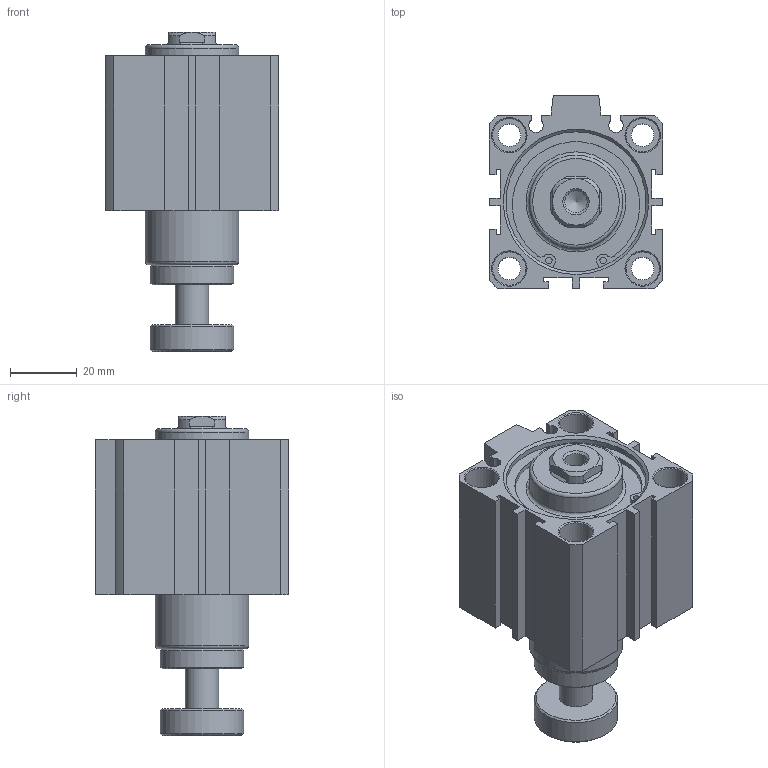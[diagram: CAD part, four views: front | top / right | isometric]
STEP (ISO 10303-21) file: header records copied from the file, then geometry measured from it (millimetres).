
FILE_DESCRIPTION((''),'2;1');
FILE_NAME('I:\3D電子目錄\氣缸\JDAR\JDAR-S\JDAR40-S\JDAR40x10-S.stp','2007-05-05T09:34:36',('662F206'),(''),'Autodesk Inventor 11','Autodesk Inventor 11','');
FILE_SCHEMA(('AUTOMOTIVE_DESIGN { 1 0 10303 214 1 1 1 1 }'));
Length unit declared in the file: millimetre
Products named in the file (3): JDAR40-S; JDAR40; R 形環 42
Assembly tree (3 placements, depth 2):
  JDAR40-S
    JDAR40
    R 形環 42  x2
Bounding box: 52 x 58 x 95.8 mm (x, y, z)
Volume: 123888.5 mm3; surface area: 32649.8 mm2
Topology: 3 solids, 3 shells, 172 faces, 405 edges, 263 vertices
Faces by surface type: plane 92, cylinder 51, cone 23, bspline 4, torus 2
Full cylindrical faces by diameter (mm): 1.9 x4, 2.2 x2, 6.8 x4, 10 x9, 25 x2, 28 x2, 42 x4, 44.5 x2
Entity records: 4475 total; most frequent: CARTESIAN_POINT 858, DIRECTION 758, ORIENTED_EDGE 634, EDGE_CURVE 317, AXIS2_PLACEMENT_3D 287, EDGE_LOOP 248, VERTEX_POINT 237, VECTOR 184
